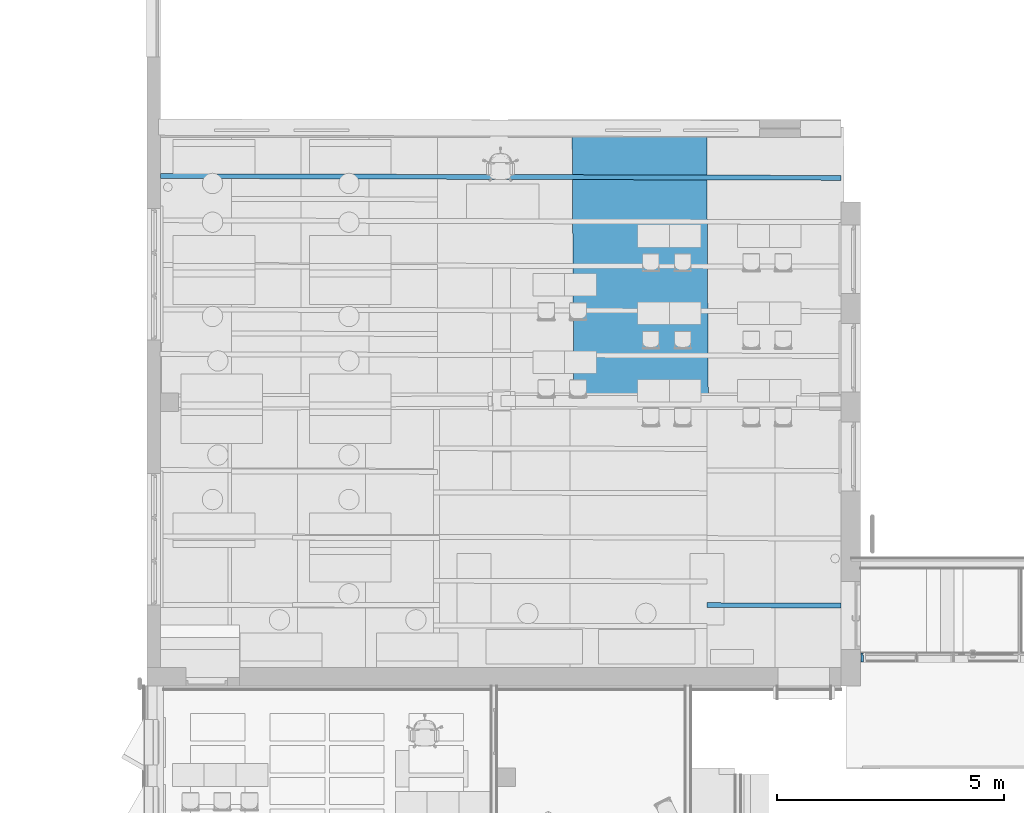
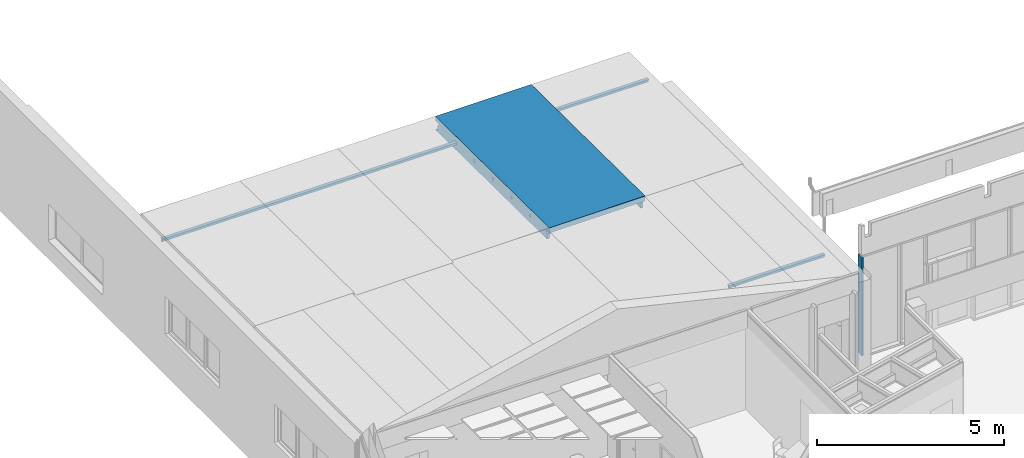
# One storey, part 27 of 153: 3 beams, 1 member, 1 element without a shape of its own.
"""IFC2X3 building model written with IfcOpenShell, lengths in millimetres."""

from ifc_helpers import new_model, entity, si_unit, converted_unit, derived_unit, money_unit, direction, frame, origin_with_axes, place, context, subcontext, project, spatial, faceted_brep, material, type_object, element, aggregate, save


model = new_model("IFC2X3")

# Units and contexts
model_context = context("Model", 3, precision=0.01, world=origin_with_axes(), true_north=direction((0.0, 1.0)))
body_context = subcontext(model_context, "Body", "Model", "MODEL_VIEW")
ifc_project = project(units=[si_unit("LENGTHUNIT", "METRE", prefix="MILLI"), si_unit("AREAUNIT", "SQUARE_METRE"), si_unit("VOLUMEUNIT", "CUBIC_METRE"), converted_unit("PLANEANGLEUNIT", "DEGREE", entity("IfcPlaneAngleMeasure", 0.0174532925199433), si_unit("PLANEANGLEUNIT", "RADIAN"), dimensions=[0, 0, 0, 0, 0, 0, 0]), money_unit("EUR"), converted_unit("TIMEUNIT", "Year", entity("IfcTimeMeasure", 31557600.0), si_unit("TIMEUNIT", "SECOND"), dimensions=[0, 0, 1, 0, 0, 0, 0]), si_unit("MASSUNIT", "GRAM", prefix="KILO"), si_unit("THERMODYNAMICTEMPERATUREUNIT", "DEGREE_CELSIUS"), si_unit("LUMINOUSINTENSITYUNIT", "LUMEN"), si_unit("ENERGYUNIT", "JOULE", prefix="MEGA"), derived_unit("THERMALCONDUCTANCEUNIT", [(si_unit("POWERUNIT", "WATT"), 1), (si_unit("LENGTHUNIT", "METRE"), -1), (si_unit("THERMODYNAMICTEMPERATUREUNIT", "KELVIN"), -1)]), derived_unit("SPECIFICHEATCAPACITYUNIT", [(si_unit("ENERGYUNIT", "JOULE"), 1), (si_unit("MASSUNIT", "GRAM", prefix="KILO"), -1), (si_unit("THERMODYNAMICTEMPERATUREUNIT", "KELVIN"), -1)]), derived_unit("MASSDENSITYUNIT", [(si_unit("MASSUNIT", "GRAM", prefix="KILO"), 1), (si_unit("VOLUMEUNIT", "CUBIC_METRE"), -1)])], contexts=[model_context])

# Site, building, storey
site_placement = place(None, frame((0.0, 0.0, 8650.0), z_axis=(0.0, 0.0, 1.0), x_axis=(1.0, 0.0, 0.0)))
site = spatial("IfcSite", under=ifc_project, at=site_placement, Name="43301:001:0844", CompositionType="ELEMENT")
building_placement = place(site_placement, origin_with_axes())
building = spatial("IfcBuilding", under=site, at=building_placement, Name="Kuressaare Ametikooli tuulikute mehaanikute õppekorpus", CompositionType="ELEMENT")
storey_placement = place(building_placement, frame((0.0, 0.0, 4100.0), z_axis=(0.0, 0.0, 1.0), x_axis=(1.0, 0.0, 0.0)))
storey = spatial("IfcBuildingStorey", under=building, at=storey_placement, Name="2.korrus", CompositionType="ELEMENT", Elevation=4100.0)

# Curtain wall, member
curtain_wall_type = type_object("IfcCurtainWallType", Name="Curtain Wall Type", PredefinedType="NOTDEFINED")
curtain_wall_placement = place(storey_placement, frame((107592.1026822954, 26479.57374875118, 34.9999663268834), z_axis=(0.0, 0.0, 1.0), x_axis=(1.0, 0.0, 0.0)))
curtain_wall = element("IfcCurtainWall", 1, at=curtain_wall_placement, inside=storey, type_object=curtain_wall_type, Name="SKF-2.1,EI60")
ifc_material_1 = material(Name="Aluminium")
member_type = type_object("IfcMemberType", Name="Mullion Frame 50 x 200", PredefinedType="NOTDEFINED")
member_placement = place(curtain_wall_placement, frame((-3900.000138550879, 0.0, 3259.999959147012), z_axis=(3.858237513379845e-08, 0.0, -0.9999999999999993), x_axis=(0.9999999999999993, 0.0, 3.858237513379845e-08)))
member = element("IfcMember", 2, at=member_placement, type_object=member_type, material=ifc_material_1, context=body_context, shape_type="Brep", body=[
    faceted_brep([(4.999875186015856, 19.99999999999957, 3234.999958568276), (24.99987518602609, 19.99999999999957, 3234.999959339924), (24.99987518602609, 170.0000000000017, 3234.999953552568), (-25.00012481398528, 170.0000000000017, 3234.999951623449), (-25.00012481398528, -30.00000000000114, 3234.999959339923), (24.99987518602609, -30.00000000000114, 3234.999961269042), (24.99987518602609, -19.99999999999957, 3234.99996088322), (4.999875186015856, -19.99999999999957, 3234.999960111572), (4.999999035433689, 19.99999999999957, 25.00003296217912), (24.99999903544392, 19.99999999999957, 25.00003373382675), (24.99999903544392, 170.0000000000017, 25.00027950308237), (-25.00000096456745, 170.0000000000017, 25.00027757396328), (-25.00000096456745, -30.00000000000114, 24.99994988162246), (24.99999903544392, -30.00000000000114, 24.99995181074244), (24.99999903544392, -19.99999999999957, 24.99996819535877), (4.999999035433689, -19.99999999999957, 24.99996742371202)], [[[0, 1, 2, 3, 4, 5, 6, 7]], [[0, 8, 9, 1]], [[9, 10, 2, 1]], [[2, 10, 11, 3]], [[3, 11, 12, 4]], [[4, 12, 13, 5]], [[6, 5, 13, 14]], [[14, 15, 7, 6]], [[7, 15, 8, 0]], [[8, 15, 14, 13, 12, 11, 10, 9]]]),
])
aggregate(curtain_wall, [member])

# Beams
ifc_material_2 = material(Name="GENEERILINE - KONSTRUKTRIOON")
beam_type_1 = type_object("IfcBeamType", Name="Precast Single Tee 2 107 x 102", PredefinedType="NOTDEFINED")
beam_1_placement = place(storey_placement, frame((88258.75644683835, 36997.16475174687, 2805.133663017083), z_axis=(0.0, 0.0, 1.0), x_axis=(-0.002672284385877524, -0.9999964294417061, 0.0)))
element("IfcBeam", 3, at=beam_1_placement, inside=storey, type_object=beam_type_1, material=ifc_material_2, context=body_context, shape_type="Brep", body=[
    faceted_brep([(45.31502884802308, 0.0, -5.574334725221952), (45.31502884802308, 14968.80935978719, -5.574334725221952), (53.51387546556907, 14968.8093597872, 0.0), (53.51387546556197, 0.0, 0.0), (40.74041549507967, 0.0, -14.37019773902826), (40.74041549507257, 14968.80935978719, -14.37019773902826), (20.00045776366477, 14968.80935978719, -101.9474782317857), (-19.99954223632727, 14968.8093597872, -101.9474782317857), (-40.74046173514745, 14968.80935978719, -14.37000248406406), (-45.31509550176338, 14968.80935978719, -5.574259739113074), (-53.51387546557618, 14968.80935978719, 0.0), (-53.51387546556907, 0.0, 0.0), (-45.31509550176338, 0.0, -5.574259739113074), (-40.74046173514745, 0.0, -14.37000248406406), (-19.99954223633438, 0.0, -101.9474782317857), (20.00045776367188, 0.0, -101.9474782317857)], [[[0, 1, 2, 3]], [[4, 5, 1, 0]], [[2, 1, 5, 6, 7, 8, 9, 10]], [[3, 2, 10, 11]], [[4, 0, 3, 11, 12, 13, 14, 15]], [[15, 6, 5, 4]], [[14, 7, 6, 15]], [[13, 8, 7, 14]], [[12, 9, 8, 13]], [[11, 10, 9, 12]]]),
])
beam_2_placement = place(storey_placement, frame((100277.5122070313, 27559.79297317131, 2805.133663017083), z_axis=(0.0, 0.0, 1.0), x_axis=(-0.002672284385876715, -0.9999964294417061, 0.0)))
element("IfcBeam", 4, at=beam_2_placement, inside=storey, type_object=beam_type_1, material=ifc_material_2, context=body_context, shape_type="Brep", body=[
    faceted_brep([(45.31502884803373, 0.0, -5.574334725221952), (45.31502884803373, 2950.010533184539, -5.574334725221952), (53.51387546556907, 2950.010533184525, 0.0), (53.51387546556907, 0.0, 0.0), (40.74041549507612, 0.0, -14.37019773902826), (40.74041549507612, 2950.010533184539, -14.37019773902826), (20.00045776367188, 2950.010533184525, -101.9474782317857), (-19.99954223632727, 2950.010533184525, -101.9474782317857), (-40.7404617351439, 2950.010533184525, -14.37000248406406), (-45.31509550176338, 2950.010533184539, -5.574259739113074), (-53.51387546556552, 2950.010533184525, 0.0), (-53.51387546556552, 0.0, 0.0), (-45.31509550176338, 0.0, -5.574259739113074), (-40.7404617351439, 0.0, -14.37000248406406), (-19.99954223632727, 0.0, -101.9474782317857), (20.00045776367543, 0.0, -101.9474782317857)], [[[0, 1, 2, 3]], [[4, 5, 1, 0]], [[2, 1, 5, 6, 7, 8, 9, 10]], [[3, 2, 10, 11]], [[4, 0, 3, 11, 12, 13, 14, 15]], [[15, 6, 5, 4]], [[14, 7, 6, 15]], [[13, 8, 7, 14]], [[12, 9, 8, 13]], [[11, 10, 9, 12]]]),
])
beam_type_2 = type_object("IfcBeamType", Name="Precast Double Tee 4 2960 x 440", PredefinedType="NOTDEFINED")
beam_3_placement = place(storey_placement, frame((98790.14244905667, 38067.25329041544, 2975.0), z_axis=(0.0, 0.0, 1.0), x_axis=(-0.9999823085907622, -0.005948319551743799, 0.0)))
element("IfcBeam", 5, at=beam_3_placement, inside=storey, type_object=beam_type_2, material=ifc_material_2, context=body_context, shape_type="Brep", body=[
    faceted_brep([(-1479.99999999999, 8.803668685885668, 0.0), (-1479.99999999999, 8.803668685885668, -144.9098486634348), (-7.929656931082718e-09, 0.0, -144.9098486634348), (0.0, 0.0, 0.0), (-1479.999999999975, 196.5285006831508, -156.4427065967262), (-1479.999999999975, 207.4914107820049, -144.9098486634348), (-1479.999999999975, 6021.603801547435, 0.0), (-1479.999999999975, 6021.603801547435, -169.8235593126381), (-1479.999999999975, 5854.854527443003, -169.8235593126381), (-1479.99999999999, 5865.817392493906, -181.3564172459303), (-1479.999999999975, 5897.49078576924, -222.371868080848), (-1479.99999999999, 5923.083515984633, -267.4325278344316), (-1479.999999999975, 5923.084038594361, -440.0001340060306), (-1479.99999999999, 0.0, -440.0001340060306), (-1479.99999999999, 0.0, -420.0865585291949), (-1479.999999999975, 139.2616041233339, -420.0865585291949), (-1479.999999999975, 139.2621418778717, -242.5188171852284), (-1479.999999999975, 164.8549772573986, -197.4581574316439), (-1480.000000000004, 5073.061036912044, -175.4406717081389), (-1479.99999999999, 5081.260188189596, -169.866336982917), (-1479.99999999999, 4974.228460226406, -169.866336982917), (-1479.99999999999, 4982.427544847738, -175.4405967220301), (-1479.99999999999, 4987.002348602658, -184.236339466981), (-1479.99999999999, 5007.744038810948, -271.8138152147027), (-1479.99999999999, 5047.745525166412, -271.8138152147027), (-1479.99999999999, 5068.486253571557, -184.2365347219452), (-1479.99999999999, 4098.534103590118, -169.866336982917), (-1479.99999999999, 3991.502375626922, -169.866336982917), (-1479.99999999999, 3999.701460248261, -175.4405967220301), (-1479.99999999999, 4004.276264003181, -184.236339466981), (-1479.999999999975, 4025.017954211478, -271.8138152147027), (-1479.99999999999, 4065.019440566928, -271.8138152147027), (-1479.999999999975, 4085.760168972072, -184.2365347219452), (-1479.999999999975, 4090.334952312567, -175.4406717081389), (-1479.99999999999, 3010.933462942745, -169.866336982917), (-1479.999999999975, 3019.132547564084, -175.4405967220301), (-1479.99999999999, 3023.707351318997, -184.236339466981), (-1479.999999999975, 3044.449041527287, -271.8138152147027), (-1479.99999999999, 3084.450527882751, -271.8138152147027), (-1479.99999999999, 3105.191256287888, -184.2365347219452), (-1479.99999999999, 3109.766039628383, -175.4406717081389), (-1479.99999999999, 3117.965190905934, -169.866336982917), (-1479.999999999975, 2038.189754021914, -175.4405967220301), (-1479.999999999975, 2042.764557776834, -184.236339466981), (-1479.99999999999, 2063.506247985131, -271.8138152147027), (-1479.999999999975, 2103.507734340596, -271.8138152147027), (-1479.999999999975, 2124.248462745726, -184.2365347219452), (-1479.99999999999, 2128.82324608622, -175.4406717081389), (-1479.999999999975, 2137.022397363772, -169.866336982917), (-1479.999999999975, 2029.990669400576, -169.866336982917), (-1479.999999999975, 1070.285276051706, -184.236339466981), (-1479.99999999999, 1091.026966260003, -271.8138152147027), (-1479.999999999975, 1131.028452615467, -271.8138152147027), (-1479.999999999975, 1151.769181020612, -184.2365347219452), (-1479.99999999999, 1156.343964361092, -175.4406717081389), (-1479.999999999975, 1164.543115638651, -169.866336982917), (-1479.999999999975, 1057.511387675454, -169.866336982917), (-1479.99999999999, 1065.7104722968, -175.4405967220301), (1480.000000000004, 0.0, -144.9098486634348), (1480.000000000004, 183.4273764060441, -144.9098486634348), (1480.000000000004, 0.0, 0.0), (1480.000000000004, 6021.603801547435, 0.0), (1480.000000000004, 172.4644663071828, -156.4427065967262), (1480.000000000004, 6021.603801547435, -169.8235593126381), (1479.99999999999, 5832.336353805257, -169.8235593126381), (-1314.253143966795, 5853.593609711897, -169.8235593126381), (-1334.310838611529, 5857.246443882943, -173.505793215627), (-1347.269452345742, 5864.807646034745, -181.3564172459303), (-1370.759132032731, 5896.65973683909, -222.371868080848), (-1351.752641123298, 5866.939144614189, -184.0724353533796), (-1364.303819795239, 5879.446620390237, -200.145341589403), (-1370.327470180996, 5894.537792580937, -219.628309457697), (-1377.848817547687, 5922.306401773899, -267.4325278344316), (-1404.999996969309, 5922.513476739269, -440.0001340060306), (-1404.999996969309, 0.0, -440.0001340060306), (-1401.866865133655, 0.0, -420.0865585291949), (-1401.866865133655, 138.6264019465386, -420.0865585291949), (-1373.928982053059, 138.3998119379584, -242.5188171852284), (-1370.327470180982, 151.371518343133, -219.628309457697), (-1364.303819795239, 162.3881732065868, -200.145341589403), (-1362.205423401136, 163.897337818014, -197.4581574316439), (-1334.310838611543, 182.1673907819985, -173.505793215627), (-1314.253143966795, 184.8479190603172, -169.8234995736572), (1316.819669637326, 162.5959215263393, -170.9398142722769), (1334.452413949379, 161.2961978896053, -172.4372542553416), (1350.286968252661, 155.0661889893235, -180.3380699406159), (1362.086528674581, 144.7859516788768, -193.5261847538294), (1363.529794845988, 141.7378155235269, -197.4581574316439), (1480.000000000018, 140.7909428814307, -197.4581574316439), (-1351.752641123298, 174.1492683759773, -184.0724353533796), (-1334.310838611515, 5074.6510366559, -173.505793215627), (-1314.486482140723, 5079.833320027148, -169.866336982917), (-1337.504641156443, 5071.832604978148, -175.4406717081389), (-1314.486482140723, 4972.801592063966, -169.866336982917), (-1334.310838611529, 4978.325709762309, -173.505793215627), (-1337.504517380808, 4981.199111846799, -175.4405967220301), (-1351.752641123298, 4985.811497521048, -184.0724353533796), (-1351.880632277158, 4985.897850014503, -184.236339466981), (-1378.538153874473, 5006.869350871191, -271.8138152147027), (-1364.303819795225, 4989.772807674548, -200.145341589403), (-1370.327470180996, 4994.439047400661, -219.628309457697), (-1378.538153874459, 5046.870837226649, -271.8138152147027), (-1351.880784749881, 5067.381756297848, -184.2365347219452), (-1370.327470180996, 5059.159028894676, -219.628309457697), (-1364.303819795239, 5063.721206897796, -200.145341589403), (-1351.752641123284, 5067.466000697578, -184.0724353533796), (-1314.486482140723, 4097.107235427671, -169.866336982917), (-1314.486482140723, 3990.075507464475, -169.866336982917), (-1337.504517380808, 3998.473027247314, -175.4405967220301), (-1334.310838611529, 3995.599625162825, -173.505793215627), (-1351.880632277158, 4003.171765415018, -184.236339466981), (-1351.752641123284, 4003.085412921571, -184.0724353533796), (-1364.303819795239, 4007.046723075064, -200.145341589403), (-1370.327470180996, 4011.71296280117, -219.628309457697), (-1378.538153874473, 4024.143266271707, -271.8138152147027), (-1378.538153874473, 4064.144752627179, -271.8138152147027), (-1370.327470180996, 4076.432944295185, -219.628309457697), (-1364.303819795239, 4080.995122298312, -200.145341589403), (-1351.880784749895, 4084.655671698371, -184.2365347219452), (-1337.504641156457, 4089.106520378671, -175.4406717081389), (-1351.752641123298, 4084.739916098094, -184.0724353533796), (-1334.310838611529, 4091.924952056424, -173.505793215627), (-1314.486482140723, 3009.506594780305, -169.866336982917), (-1334.310838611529, 3015.030712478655, -173.505793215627), (-1337.504517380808, 3017.904114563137, -175.4405967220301), (-1351.752641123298, 3022.516500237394, -184.0724353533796), (-1351.880632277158, 3022.602852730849, -184.236339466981), (-1364.303819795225, 3026.477810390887, -200.145341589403), (-1370.327470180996, 3031.144050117, -219.628309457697), (-1378.538153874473, 3043.57435358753, -271.8138152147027), (-1378.538153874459, 3083.575839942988, -271.8138152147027), (-1370.327470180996, 3095.864031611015, -219.628309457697), (-1364.303819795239, 3100.426209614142, -200.145341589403), (-1351.880784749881, 3104.086759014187, -184.2365347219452), (-1351.752641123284, 3104.171003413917, -184.0724353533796), (-1337.504641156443, 3108.537607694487, -175.4406717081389), (-1334.310838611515, 3111.35603937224, -173.505793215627), (-1314.486482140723, 3116.538322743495, -169.866336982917), (-1337.504517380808, 2036.961321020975, -175.4405967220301), (-1351.752641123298, 2041.573706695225, -184.0724353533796), (-1351.880632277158, 2041.660059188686, -184.236339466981), (-1364.303819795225, 2045.535016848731, -200.145341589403), (-1370.327470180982, 2050.201256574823, -219.628309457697), (-1378.538153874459, 2062.631560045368, -271.8138152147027), (-1378.538153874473, 2102.633046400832, -271.8138152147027), (-1370.327470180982, 2114.921238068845, -219.628309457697), (-1364.303819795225, 2119.483416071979, -200.145341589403), (-1351.880784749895, 2123.143965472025, -184.2365347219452), (-1351.752641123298, 2123.228209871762, -184.0724353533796), (-1337.504641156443, 2127.594814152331, -175.4406717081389), (-1334.310838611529, 2130.413245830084, -173.505793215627), (-1314.486482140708, 2135.595529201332, -169.866336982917), (-1314.486482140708, 2028.563801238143, -169.866336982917), (-1334.310838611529, 2034.087918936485, -173.505793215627), (-1364.303819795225, 1073.055735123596, -200.145341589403), (-1370.327470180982, 1077.721974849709, -219.628309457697), (-1378.538153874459, 1090.152278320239, -271.8138152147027), (-1351.880632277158, 1069.180777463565, -184.236339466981), (-1378.538153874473, 1130.153764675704, -271.8138152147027), (-1370.327470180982, 1142.441956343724, -219.628309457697), (-1364.303819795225, 1147.004134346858, -200.145341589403), (-1351.880784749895, 1150.664683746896, -184.2365347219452), (-1351.752641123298, 1150.748928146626, -184.0724353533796), (-1337.504641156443, 1155.115532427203, -175.4406717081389), (-1334.310838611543, 1157.933964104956, -173.505793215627), (-1314.486482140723, 1163.116247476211, -169.866336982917), (-1314.486482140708, 1056.084519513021, -169.866336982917), (-1334.310838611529, 1061.608637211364, -173.505793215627), (-1337.504517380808, 1064.482039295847, -175.4405967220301), (-1351.752641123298, 1069.09442497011, -184.0724353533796), (1480.000000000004, 115.1981075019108, -242.5188171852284), (1480.000000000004, 115.1975697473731, -420.0865585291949), (1480.000000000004, 0.0, -420.0865585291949), (1480.000000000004, 0.0, -440.0001340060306), (1480.000000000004, 5900.565864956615, -440.0001340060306), (1480.000000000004, 5900.56534234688, -267.4325278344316), (1479.99999999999, 5874.972612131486, -222.371868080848), (1479.99999999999, 5843.299218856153, -181.3564172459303), (1480.000000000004, 4948.710727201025, -169.866336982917), (1480.000000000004, 5055.742455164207, -169.866336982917), (1479.99999999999, 5047.543303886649, -175.4406717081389), (1479.99999999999, 5042.968520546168, -184.2365347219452), (1479.99999999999, 5022.227792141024, -271.8138152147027), (1480.000000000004, 4982.22630578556, -271.8138152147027), (1480.000000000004, 4961.484615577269, -184.236339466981), (1479.99999999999, 4956.909811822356, -175.4405967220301), (1479.99999999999, 4073.016370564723, -169.866336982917), (1479.99999999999, 4064.817219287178, -175.4406717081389), (1480.000000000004, 4060.242435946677, -184.2365347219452), (1480.000000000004, 4039.501707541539, -271.8138152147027), (1479.99999999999, 3999.500221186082, -271.8138152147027), (1479.99999999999, 3978.758530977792, -184.236339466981), (1480.000000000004, 3974.183727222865, -175.4405967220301), (1479.99999999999, 3965.984642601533, -169.866336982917), (1479.99999999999, 3084.248306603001, -175.4406717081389), (1479.99999999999, 3079.673523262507, -184.2365347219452), (1479.99999999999, 3058.932794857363, -271.8138152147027), (1479.99999999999, 3018.931308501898, -271.8138152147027), (1480.000000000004, 2998.189618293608, -184.236339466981), (1479.99999999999, 2993.614814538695, -175.4405967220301), (1480.000000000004, 2985.415729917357, -169.866336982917), (1480.000000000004, 3092.447457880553, -169.866336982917), (1480.000000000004, 2098.730729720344, -184.2365347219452), (1480.000000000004, 2077.990001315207, -271.8138152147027), (1480.000000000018, 2037.988514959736, -271.8138152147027), (1480.000000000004, 2017.246824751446, -184.236339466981), (1480.000000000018, 2012.672020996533, -175.4405967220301), (1480.000000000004, 2004.472936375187, -169.866336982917), (1480.000000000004, 2111.504664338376, -169.866336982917), (1480.000000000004, 2103.305513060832, -175.4406717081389), (1480.000000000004, 1105.510719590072, -271.8138152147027), (1480.000000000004, 1065.509233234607, -271.8138152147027), (1480.000000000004, 1044.767543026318, -184.236339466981), (1480.000000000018, 1040.192739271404, -175.4405967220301), (1480.000000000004, 1031.993654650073, -169.866336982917), (1480.000000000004, 1139.025382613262, -169.866336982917), (1480.000000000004, 1130.82623133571, -175.4406717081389), (1480.000000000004, 1126.251447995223, -184.2365347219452), (1334.452413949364, 5835.928123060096, -172.4372542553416), (1316.819669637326, 5834.638832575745, -170.9398142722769), (1351.19809548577, 5844.279078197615, -181.3564172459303), (1350.286968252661, 5843.317992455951, -180.3380699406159), (1316.819669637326, 2007.458650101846, -170.9398142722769), (1316.819669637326, 1138.853185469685, -170.9398142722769), (-1213.429276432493, 1162.245047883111, -169.866336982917), (-1213.429276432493, 1055.213319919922, -169.866336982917), (1316.819669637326, 1034.979368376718, -170.9398142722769), (1316.819669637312, 5055.57025802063, -170.9398142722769), (-1213.429276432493, 5078.962120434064, -169.866336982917), (-1213.429276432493, 4971.930392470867, -169.866336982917), (1316.819669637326, 4951.69644092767, -170.9398142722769), (1316.819669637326, 4072.844173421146, -170.9398142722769), (-1213.429276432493, 4096.23603583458, -169.866336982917), (-1213.429276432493, 3989.204307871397, -169.866336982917), (1316.819669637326, 3968.970356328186, -170.9398142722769), (1316.819669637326, 3092.275260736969, -170.9398142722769), (-1213.429276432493, 3115.667123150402, -169.866336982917), (-1213.429276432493, 3008.635395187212, -169.866336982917), (1316.819669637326, 2988.401443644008, -170.9398142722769), (1316.819669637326, 2111.332467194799, -170.9398142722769), (-1213.429276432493, 2134.724329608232, -169.866336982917), (-1213.429276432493, 2027.69260164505, -169.866336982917), (1334.452413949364, 1037.029918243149, -172.4372542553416), (1340.471613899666, 1041.395593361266, -175.4405967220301), (1350.286968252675, 1043.858229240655, -180.3380699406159), (1353.774795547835, 1045.85571230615, -184.236339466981), (1362.086528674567, 1047.984248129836, -193.5261847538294), (1368.184278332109, 134.4979211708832, -210.1386333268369), (1368.184278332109, 1051.866142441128, -210.1386333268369), (1374.074785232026, 116.0592520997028, -242.5188171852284), (1406.377381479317, 115.7961025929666, -420.0865585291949), (1406.377381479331, 0.0, -420.0865585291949), (1410.000000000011, 0.0, -440.0001340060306), (1410.000000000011, 5901.098389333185, -440.0001340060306), (1378.607013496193, 5901.336688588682, -267.4325278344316), (1370.409712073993, 5875.806319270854, -222.371868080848), (1368.184278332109, 5866.376368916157, -210.1386333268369), (1362.086528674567, 5853.594113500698, -193.5261847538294), (1334.452413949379, 5053.215701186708, -172.4372542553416), (1340.471764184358, 5048.746156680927, -175.4406717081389), (1350.286968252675, 5046.114373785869, -180.3380699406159), (1353.774970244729, 5044.056688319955, -184.2365347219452), (1362.086528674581, 5041.784988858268, -193.5261847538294), (1368.184278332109, 5037.798132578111, -210.1386333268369), (1379.4040442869, 5023.095015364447, -271.8138152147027), (1379.4040442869, 4983.093529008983, -271.8138152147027), (1368.184278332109, 4968.58321499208, -210.1386333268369), (1362.086528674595, 4964.701320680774, -193.5261847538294), (1353.774795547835, 4962.572784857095, -184.236339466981), (1350.286968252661, 4960.575301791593, -180.3380699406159), (1340.471613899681, 4958.112665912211, -175.4405967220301), (1334.452413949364, 4953.746990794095, -172.4372542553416), (1334.452413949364, 4070.489616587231, -172.4372542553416), (1340.471764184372, 4066.02007208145, -175.4406717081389), (1350.286968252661, 4063.388289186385, -180.3380699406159), (1353.774970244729, 4061.330603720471, -184.2365347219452), (1362.086528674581, 4059.058904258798, -193.5261847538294), (1368.184278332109, 4055.072047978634, -210.1386333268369), (1379.404044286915, 4040.368930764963, -271.8138152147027), (1379.4040442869, 4000.367444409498, -271.8138152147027), (1362.086528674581, 3981.975236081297, -193.5261847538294), (1353.774795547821, 3979.84670025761, -184.236339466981), (1368.184278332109, 3985.857130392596, -210.1386333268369), (1350.286968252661, 3977.849217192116, -180.3380699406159), (1340.471613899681, 3975.386581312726, -175.4405967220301), (1334.452413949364, 3971.020906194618, -172.4372542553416), (1340.471764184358, 3085.451159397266, -175.4406717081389), (1350.286968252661, 3082.819376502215, -180.3380699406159), (1353.774970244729, 3080.761691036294, -184.2365347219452), (1362.086528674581, 3078.489991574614, -193.5261847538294), (1368.184278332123, 3074.503135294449, -210.1386333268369), (1379.4040442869, 3059.800018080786, -271.8138152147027), (1379.4040442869, 3019.798531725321, -271.8138152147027), (1353.774795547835, 2999.27778757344, -184.236339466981), (1368.184278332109, 3005.288217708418, -210.1386333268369), (1362.086528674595, 3001.40632339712, -193.5261847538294), (1350.286968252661, 2997.280304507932, -180.3380699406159), (1340.471613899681, 2994.817668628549, -175.4405967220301), (1334.452413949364, 2990.451993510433, -172.4372542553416), (1334.452413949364, 3089.920703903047, -172.4372542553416), (1368.184278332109, 2093.560341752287, -210.1386333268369), (1379.4040442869, 2078.857224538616, -271.8138152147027), (1353.774970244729, 2099.818897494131, -184.2365347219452), (1362.086528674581, 2097.547198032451, -193.5261847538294), (1379.4040442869, 2038.855738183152, -271.8138152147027), (1368.184278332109, 2024.345424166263, -210.1386333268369), (1362.086528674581, 2020.463529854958, -193.5261847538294), (1353.774795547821, 2018.334994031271, -184.236339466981), (1340.471613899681, 2013.874875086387, -175.4405967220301), (1350.286968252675, 2016.337510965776, -180.3380699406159), (1334.452413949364, 2009.509199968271, -172.4372542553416), (1334.452413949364, 2108.977910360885, -172.4372542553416), (1340.471764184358, 2104.508365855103, -175.4406717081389), (1350.286968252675, 2101.876582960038, -180.3380699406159), (1379.404044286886, 1066.376456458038, -271.8138152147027), (1379.4040442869, 1106.377942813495, -271.8138152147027), (1340.471764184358, 1132.029084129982, -175.4406717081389), (1334.452413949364, 1136.498628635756, -172.4372542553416), (1353.774970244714, 1127.33961576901, -184.2365347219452), (1350.286968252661, 1129.397301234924, -180.3380699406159), (1362.086528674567, 1125.067916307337, -193.5261847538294), (1368.184278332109, 1121.081060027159, -210.1386333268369)], [[[0, 1, 2, 3]], [[4, 5, 1, 0, 6, 7, 8, 9, 10, 11, 12, 13, 14, 15, 16, 17], [18, 19, 20, 21, 22, 23, 24, 25], [26, 27, 28, 29, 30, 31, 32, 33], [34, 35, 36, 37, 38, 39, 40, 41], [42, 43, 44, 45, 46, 47, 48, 49], [50, 51, 52, 53, 54, 55, 56, 57]], [[58, 2, 1, 5, 59]], [[60, 3, 2, 58]], [[0, 3, 60, 61, 6]], [[59, 5, 4, 62]], [[63, 7, 6, 61]], [[63, 64, 65, 8, 7]], [[65, 66, 67, 9, 8]], [[68, 10, 9, 67, 69, 70, 71]], [[11, 10, 68, 72]], [[12, 11, 72, 73]], [[12, 73, 74, 13]], [[74, 75, 14, 13]], [[76, 15, 14, 75]], [[77, 16, 15, 76]], [[78, 79, 80, 17, 16, 77]], [[81, 82, 83, 84, 85, 86, 87, 88, 62, 4, 17, 80, 89]], [[90, 91, 19, 18, 92]], [[19, 91, 93, 20]], [[94, 95, 21, 20, 93]], [[96, 97, 22, 21, 95]], [[98, 23, 22, 97, 99, 100]], [[23, 98, 101, 24]], [[102, 25, 24, 101, 103, 104]], [[105, 92, 18, 25, 102]], [[106, 107, 27, 26]], [[108, 28, 27, 107, 109]], [[110, 29, 28, 108, 111]], [[30, 29, 110, 112, 113, 114]], [[114, 115, 31, 30]], [[32, 31, 115, 116, 117, 118]], [[119, 33, 32, 118, 120]], [[106, 26, 33, 119, 121]], [[35, 34, 122, 123, 124]], [[36, 35, 124, 125, 126]], [[36, 126, 127, 128, 129, 37]], [[130, 38, 37, 129]], [[38, 130, 131, 132, 133, 39]], [[40, 39, 133, 134, 135]], [[41, 40, 135, 136, 137]], [[122, 34, 41, 137]], [[42, 138, 139, 140, 43]], [[140, 141, 142, 143, 44, 43]], [[45, 44, 143, 144]], [[144, 145, 146, 147, 46, 45]], [[46, 147, 148, 149, 47]], [[47, 149, 150, 151, 48]], [[49, 48, 151, 152]], [[49, 152, 153, 138, 42]], [[154, 155, 156, 51, 50, 157]], [[51, 156, 158, 52]], [[159, 160, 161, 53, 52, 158]], [[161, 162, 163, 54, 53]], [[163, 164, 165, 55, 54]], [[55, 165, 166, 56]], [[166, 167, 168, 57, 56]], [[168, 169, 157, 50, 57]], [[170, 171, 172, 173, 174, 175, 176, 177, 64, 63, 61, 60, 58, 59, 62, 88], [178, 179, 180, 181, 182, 183, 184, 185], [186, 187, 188, 189, 190, 191, 192, 193], [194, 195, 196, 197, 198, 199, 200, 201], [202, 203, 204, 205, 206, 207, 208, 209], [210, 211, 212, 213, 214, 215, 216, 217]], [[218, 219, 65, 64, 177, 220, 221]], [[81, 167, 166, 165, 164, 153, 152, 151, 150, 123, 122, 137, 136, 109, 107, 106, 121, 94, 93, 91, 90, 66, 65, 82]], [[90, 92, 105, 69, 67, 66]], [[69, 105, 102, 104, 70]], [[103, 71, 70, 104]], [[142, 159, 158, 156, 155, 78, 77, 76, 75, 74, 73, 72, 68, 71, 103, 101, 98, 100, 116, 115, 114, 113, 131, 130, 129, 128, 145, 144, 143]], [[154, 79, 78, 155]], [[80, 79, 154, 157, 169, 89]], [[222, 223, 224, 225, 226, 83, 82, 65, 219, 227, 228, 229, 230, 231, 232, 233, 234, 235, 236, 237, 238, 239, 240, 241]], [[242, 84, 83, 226]], [[85, 84, 242, 243, 244]], [[86, 85, 244, 245, 246]], [[247, 87, 86, 246, 248]], [[247, 249, 170, 88, 87]], [[81, 89, 169, 168, 167]], [[119, 120, 96, 95, 94, 121]], [[118, 117, 99, 97, 96, 120]], [[100, 99, 117, 116]], [[134, 111, 108, 109, 136, 135]], [[132, 112, 110, 111, 134, 133]], [[112, 132, 131, 113]], [[125, 124, 123, 150, 149, 148]], [[127, 126, 125, 148, 147, 146]], [[146, 145, 128, 127]], [[138, 153, 164, 163, 162, 139]], [[140, 139, 162, 161, 160, 141]], [[159, 142, 141, 160]], [[170, 249, 250, 171]], [[171, 250, 251, 172]], [[173, 172, 251, 252]], [[253, 174, 173, 252]], [[253, 254, 175, 174]], [[254, 255, 176, 175]], [[255, 256, 257, 220, 177, 176]], [[228, 179, 178, 229]], [[179, 228, 227, 258, 259, 180]], [[181, 180, 259, 260, 261]], [[181, 261, 262, 263, 264, 182]], [[265, 183, 182, 264]], [[266, 267, 268, 184, 183, 265]], [[184, 268, 269, 270, 185]], [[271, 230, 229, 178, 185, 270]], [[232, 231, 272, 273, 187, 186]], [[187, 273, 274, 275, 188]], [[275, 276, 277, 278, 189, 188]], [[190, 189, 278, 279]], [[280, 281, 191, 190, 279, 282]], [[281, 283, 284, 192, 191]], [[234, 233, 193, 192, 284, 285]], [[186, 193, 233, 232]], [[286, 287, 288, 195, 194]], [[289, 290, 291, 196, 195, 288]], [[196, 291, 292, 197]], [[293, 198, 197, 292, 294, 295]], [[296, 297, 199, 198, 293]], [[237, 200, 199, 297, 298, 238]], [[200, 237, 236, 201]], [[235, 299, 286, 194, 201, 236]], [[300, 301, 203, 202, 302, 303]], [[301, 304, 204, 203]], [[205, 204, 304, 305, 306, 307]], [[308, 206, 205, 307, 309]], [[207, 206, 308, 310, 222, 241]], [[241, 240, 208, 207]], [[311, 312, 209, 208, 240, 239]], [[313, 302, 202, 209, 312]], [[314, 211, 210, 315]], [[211, 314, 248, 246, 245, 212]], [[213, 212, 245, 244, 243]], [[213, 243, 242, 226, 225, 214]], [[224, 215, 214, 225]], [[316, 216, 215, 224, 223, 317]], [[318, 217, 216, 316, 319]], [[315, 210, 217, 318, 320, 321]], [[227, 219, 218, 258]], [[262, 261, 260, 221, 220, 257]], [[221, 260, 259, 258, 218]], [[223, 222, 310, 317]], [[230, 271, 272, 231]], [[285, 299, 235, 234]], [[311, 239, 238, 298]], [[247, 248, 314, 315, 321, 305, 304, 301, 300, 294, 292, 291, 290, 282, 279, 278, 277, 266, 265, 264, 263, 256, 255, 254, 253, 252, 251, 250, 249]], [[262, 257, 256, 263]], [[267, 266, 277, 276]], [[275, 274, 269, 268, 267, 276]], [[273, 272, 271, 270, 269, 274]], [[287, 283, 281, 280, 289, 288]], [[282, 290, 289, 280]], [[299, 285, 284, 283, 287, 286]], [[300, 303, 295, 294]], [[296, 293, 295, 303, 302, 313]], [[298, 297, 296, 313, 312, 311]], [[320, 306, 305, 321]], [[307, 306, 320, 318, 319, 309]], [[308, 309, 319, 316, 317, 310]]]),
])

save(model, "model.ifc")
